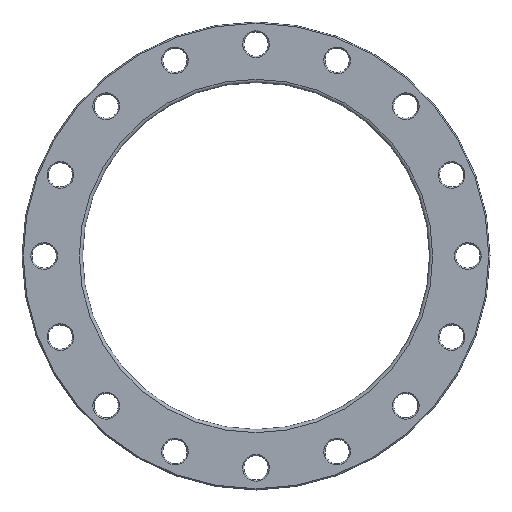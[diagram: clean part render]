
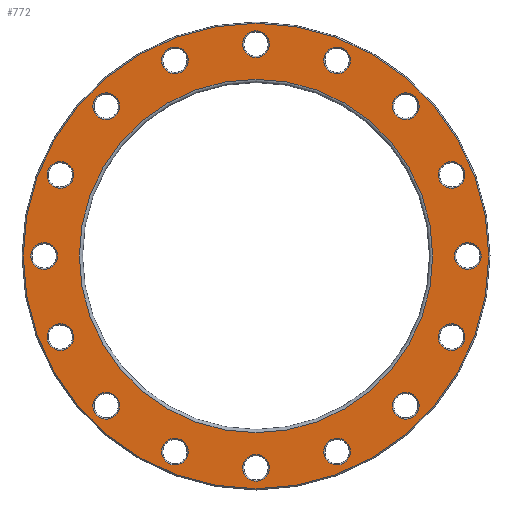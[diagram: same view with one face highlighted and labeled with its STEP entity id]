
A CAD part, front view. The second image highlights one B-rep face of the part: STEP entity #772.
In plain terms, the highlighted planar face has unit normal (0, -1, 0).
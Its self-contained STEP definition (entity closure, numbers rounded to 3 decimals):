
#23=PLANE('',#908);
#170=ORIENTED_EDGE('',*,*,#269,.T.);
#171=ORIENTED_EDGE('',*,*,#270,.T.);
#172=ORIENTED_EDGE('',*,*,#204,.T.);
#173=ORIENTED_EDGE('',*,*,#208,.T.);
#174=ORIENTED_EDGE('',*,*,#212,.T.);
#175=ORIENTED_EDGE('',*,*,#216,.T.);
#176=ORIENTED_EDGE('',*,*,#220,.T.);
#177=ORIENTED_EDGE('',*,*,#224,.T.);
#178=ORIENTED_EDGE('',*,*,#228,.T.);
#179=ORIENTED_EDGE('',*,*,#232,.T.);
#180=ORIENTED_EDGE('',*,*,#236,.T.);
#181=ORIENTED_EDGE('',*,*,#240,.T.);
#182=ORIENTED_EDGE('',*,*,#244,.T.);
#183=ORIENTED_EDGE('',*,*,#248,.T.);
#184=ORIENTED_EDGE('',*,*,#252,.T.);
#185=ORIENTED_EDGE('',*,*,#256,.T.);
#186=ORIENTED_EDGE('',*,*,#260,.T.);
#187=ORIENTED_EDGE('',*,*,#271,.T.);
#204=EDGE_CURVE('',#276,#276,#348,.T.);
#208=EDGE_CURVE('',#280,#280,#352,.T.);
#212=EDGE_CURVE('',#284,#284,#356,.T.);
#216=EDGE_CURVE('',#288,#288,#360,.T.);
#220=EDGE_CURVE('',#292,#292,#364,.T.);
#224=EDGE_CURVE('',#296,#296,#368,.T.);
#228=EDGE_CURVE('',#300,#300,#372,.T.);
#232=EDGE_CURVE('',#304,#304,#376,.T.);
#236=EDGE_CURVE('',#308,#308,#380,.T.);
#240=EDGE_CURVE('',#312,#312,#384,.T.);
#244=EDGE_CURVE('',#316,#316,#388,.T.);
#248=EDGE_CURVE('',#320,#320,#392,.T.);
#252=EDGE_CURVE('',#324,#324,#396,.T.);
#256=EDGE_CURVE('',#328,#328,#400,.T.);
#260=EDGE_CURVE('',#332,#332,#404,.T.);
#269=EDGE_CURVE('',#341,#341,#413,.F.);
#270=EDGE_CURVE('',#342,#342,#414,.T.);
#271=EDGE_CURVE('',#343,#343,#415,.T.);
#276=VERTEX_POINT('',#1187);
#280=VERTEX_POINT('',#1198);
#284=VERTEX_POINT('',#1209);
#288=VERTEX_POINT('',#1220);
#292=VERTEX_POINT('',#1231);
#296=VERTEX_POINT('',#1242);
#300=VERTEX_POINT('',#1253);
#304=VERTEX_POINT('',#1264);
#308=VERTEX_POINT('',#1275);
#312=VERTEX_POINT('',#1286);
#316=VERTEX_POINT('',#1297);
#320=VERTEX_POINT('',#1308);
#324=VERTEX_POINT('',#1319);
#328=VERTEX_POINT('',#1330);
#332=VERTEX_POINT('',#1341);
#341=VERTEX_POINT('',#1364);
#342=VERTEX_POINT('',#1366);
#343=VERTEX_POINT('',#1368);
#348=CIRCLE('',#797,16.5);
#352=CIRCLE('',#804,16.5);
#356=CIRCLE('',#811,16.5);
#360=CIRCLE('',#818,16.5);
#364=CIRCLE('',#825,16.5);
#368=CIRCLE('',#832,16.5);
#372=CIRCLE('',#839,16.5);
#376=CIRCLE('',#846,16.5);
#380=CIRCLE('',#853,16.5);
#384=CIRCLE('',#860,16.5);
#388=CIRCLE('',#867,16.5);
#392=CIRCLE('',#874,16.5);
#396=CIRCLE('',#881,16.5);
#400=CIRCLE('',#888,16.5);
#404=CIRCLE('',#895,16.5);
#413=CIRCLE('',#909,288.5);
#414=CIRCLE('',#910,219.);
#415=CIRCLE('',#911,16.5);
#530=EDGE_LOOP('',(#170));
#531=EDGE_LOOP('',(#171));
#532=EDGE_LOOP('',(#172));
#533=EDGE_LOOP('',(#173));
#534=EDGE_LOOP('',(#174));
#535=EDGE_LOOP('',(#175));
#536=EDGE_LOOP('',(#176));
#537=EDGE_LOOP('',(#177));
#538=EDGE_LOOP('',(#178));
#539=EDGE_LOOP('',(#179));
#540=EDGE_LOOP('',(#180));
#541=EDGE_LOOP('',(#181));
#542=EDGE_LOOP('',(#182));
#543=EDGE_LOOP('',(#183));
#544=EDGE_LOOP('',(#184));
#545=EDGE_LOOP('',(#185));
#546=EDGE_LOOP('',(#186));
#547=EDGE_LOOP('',(#187));
#674=FACE_BOUND('',#530,.T.);
#675=FACE_BOUND('',#531,.T.);
#676=FACE_BOUND('',#532,.T.);
#677=FACE_BOUND('',#533,.T.);
#678=FACE_BOUND('',#534,.T.);
#679=FACE_BOUND('',#535,.T.);
#680=FACE_BOUND('',#536,.T.);
#681=FACE_BOUND('',#537,.T.);
#682=FACE_BOUND('',#538,.T.);
#683=FACE_BOUND('',#539,.T.);
#684=FACE_BOUND('',#540,.T.);
#685=FACE_BOUND('',#541,.T.);
#686=FACE_BOUND('',#542,.T.);
#687=FACE_BOUND('',#543,.T.);
#688=FACE_BOUND('',#544,.T.);
#689=FACE_BOUND('',#545,.T.);
#690=FACE_BOUND('',#546,.T.);
#691=FACE_BOUND('',#547,.T.);
#772=ADVANCED_FACE('',(#674,#675,#676,#677,#678,#679,#680,#681,#682,#683,
#684,#685,#686,#687,#688,#689,#690,#691),#23,.F.);
#797=AXIS2_PLACEMENT_3D('',#1186,#931,#932);
#804=AXIS2_PLACEMENT_3D('',#1197,#945,#946);
#811=AXIS2_PLACEMENT_3D('',#1208,#959,#960);
#818=AXIS2_PLACEMENT_3D('',#1219,#973,#974);
#825=AXIS2_PLACEMENT_3D('',#1230,#987,#988);
#832=AXIS2_PLACEMENT_3D('',#1241,#1001,#1002);
#839=AXIS2_PLACEMENT_3D('',#1252,#1015,#1016);
#846=AXIS2_PLACEMENT_3D('',#1263,#1029,#1030);
#853=AXIS2_PLACEMENT_3D('',#1274,#1043,#1044);
#860=AXIS2_PLACEMENT_3D('',#1285,#1057,#1058);
#867=AXIS2_PLACEMENT_3D('',#1296,#1071,#1072);
#874=AXIS2_PLACEMENT_3D('',#1307,#1085,#1086);
#881=AXIS2_PLACEMENT_3D('',#1318,#1099,#1100);
#888=AXIS2_PLACEMENT_3D('',#1329,#1113,#1114);
#895=AXIS2_PLACEMENT_3D('',#1340,#1127,#1128);
#908=AXIS2_PLACEMENT_3D('',#1362,#1153,#1154);
#909=AXIS2_PLACEMENT_3D('',#1363,#1155,#1156);
#910=AXIS2_PLACEMENT_3D('',#1365,#1157,#1158);
#911=AXIS2_PLACEMENT_3D('',#1367,#1159,#1160);
#931=DIRECTION('',(0.,1.,0.));
#932=DIRECTION('',(0.924,0.,0.383));
#945=DIRECTION('',(0.,1.,0.));
#946=DIRECTION('',(0.707,0.,0.707));
#959=DIRECTION('',(0.,1.,0.));
#960=DIRECTION('',(0.383,0.,0.924));
#973=DIRECTION('',(0.,1.,0.));
#974=DIRECTION('',(0.,0.,1.));
#987=DIRECTION('',(0.,1.,0.));
#988=DIRECTION('',(-0.383,0.,0.924));
#1001=DIRECTION('',(0.,1.,0.));
#1002=DIRECTION('',(-0.707,0.,0.707));
#1015=DIRECTION('',(0.,1.,0.));
#1016=DIRECTION('',(-0.924,0.,0.383));
#1029=DIRECTION('',(0.,1.,0.));
#1030=DIRECTION('',(-1.,0.,0.));
#1043=DIRECTION('',(0.,1.,0.));
#1044=DIRECTION('',(-0.924,0.,-0.383));
#1057=DIRECTION('',(0.,1.,0.));
#1058=DIRECTION('',(-0.707,0.,-0.707));
#1071=DIRECTION('',(0.,1.,0.));
#1072=DIRECTION('',(-0.383,0.,-0.924));
#1085=DIRECTION('',(0.,1.,0.));
#1086=DIRECTION('',(0.,0.,-1.));
#1099=DIRECTION('',(0.,1.,0.));
#1100=DIRECTION('',(0.383,0.,-0.924));
#1113=DIRECTION('',(0.,1.,0.));
#1114=DIRECTION('',(0.707,0.,-0.707));
#1127=DIRECTION('',(0.,1.,0.));
#1128=DIRECTION('',(0.924,0.,-0.383));
#1153=DIRECTION('',(0.,1.,0.));
#1154=DIRECTION('',(0.,0.,1.));
#1155=DIRECTION('',(0.,1.,0.));
#1156=DIRECTION('',(0.,0.,1.));
#1157=DIRECTION('',(0.,1.,0.));
#1158=DIRECTION('',(0.,0.,1.));
#1159=DIRECTION('',(0.,1.,0.));
#1160=DIRECTION('',(1.,0.,0.));
#1186=CARTESIAN_POINT('',(-100.454,0.,242.518));
#1187=CARTESIAN_POINT('',(-85.21,0.,248.833));
#1197=CARTESIAN_POINT('',(-185.616,0.,185.616));
#1198=CARTESIAN_POINT('',(-173.948,0.,197.283));
#1208=CARTESIAN_POINT('',(-242.518,0.,100.454));
#1209=CARTESIAN_POINT('',(-236.204,0.,115.698));
#1219=CARTESIAN_POINT('',(-262.5,0.,0.));
#1220=CARTESIAN_POINT('',(-262.5,0.,16.5));
#1230=CARTESIAN_POINT('',(-242.518,0.,-100.454));
#1231=CARTESIAN_POINT('',(-248.833,0.,-85.21));
#1241=CARTESIAN_POINT('',(-185.616,0.,-185.616));
#1242=CARTESIAN_POINT('',(-197.283,0.,-173.948));
#1252=CARTESIAN_POINT('',(-100.454,0.,-242.518));
#1253=CARTESIAN_POINT('',(-115.698,0.,-236.204));
#1263=CARTESIAN_POINT('',(0.,0.,-262.5));
#1264=CARTESIAN_POINT('',(-16.5,0.,-262.5));
#1274=CARTESIAN_POINT('',(100.454,0.,-242.518));
#1275=CARTESIAN_POINT('',(85.21,0.,-248.833));
#1285=CARTESIAN_POINT('',(185.616,0.,-185.616));
#1286=CARTESIAN_POINT('',(173.948,0.,-197.283));
#1296=CARTESIAN_POINT('',(242.518,0.,-100.454));
#1297=CARTESIAN_POINT('',(236.204,0.,-115.698));
#1307=CARTESIAN_POINT('',(262.5,0.,0.));
#1308=CARTESIAN_POINT('',(262.5,0.,-16.5));
#1318=CARTESIAN_POINT('',(242.518,0.,100.454));
#1319=CARTESIAN_POINT('',(248.833,0.,85.21));
#1329=CARTESIAN_POINT('',(185.616,0.,185.616));
#1330=CARTESIAN_POINT('',(197.283,0.,173.948));
#1340=CARTESIAN_POINT('',(100.454,0.,242.518));
#1341=CARTESIAN_POINT('',(115.698,0.,236.204));
#1362=CARTESIAN_POINT('',(0.,0.,0.));
#1363=CARTESIAN_POINT('',(0.,0.,0.));
#1364=CARTESIAN_POINT('',(0.,0.,288.5));
#1365=CARTESIAN_POINT('',(0.,0.,0.));
#1366=CARTESIAN_POINT('',(0.,0.,219.));
#1367=CARTESIAN_POINT('',(0.,0.,262.5));
#1368=CARTESIAN_POINT('',(16.5,0.,262.5));
